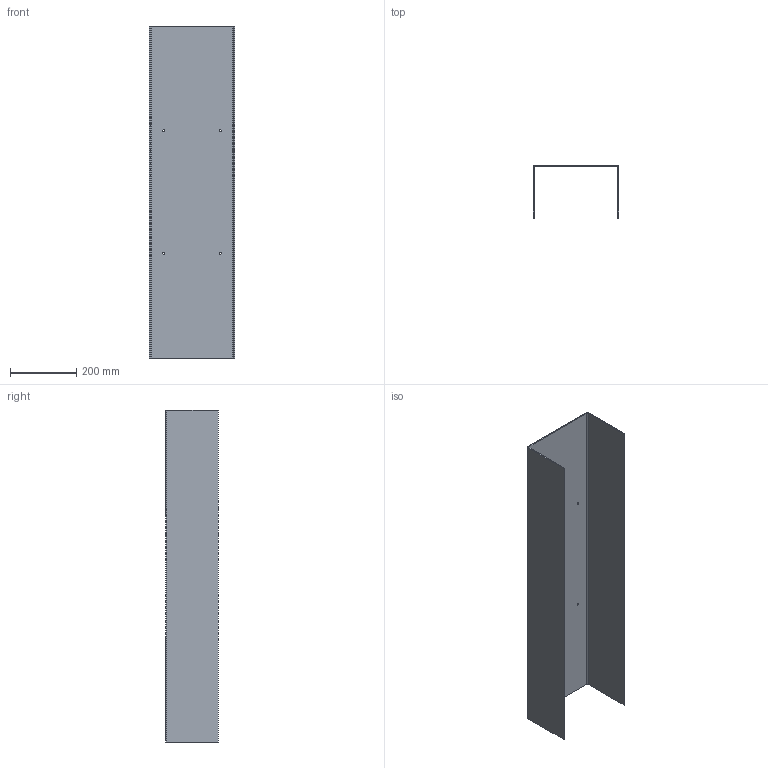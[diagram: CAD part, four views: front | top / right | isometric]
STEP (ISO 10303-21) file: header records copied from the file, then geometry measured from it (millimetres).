
FILE_DESCRIPTION (( 'STEP AP214' ), '1' );
FILE_NAME ('Beruehrungsschutzabdeckung_NF-1200_1600.STEP', '2023-09-08T11:29:57', ( '' ), ( '' ), 'SwSTEP 2.0', 'SolidWorks 2021', '' );
FILE_SCHEMA (( 'AUTOMOTIVE_DESIGN' ));
Length unit declared in the file: millimetre
Products named in the file (1): Beruehrungsschutzabdeckung_NF-1200_1600
Bounding box: 258 x 159 x 1000 mm (x, y, z)
Volume: 1709660.7 mm3; surface area: 1144269.6 mm2
Topology: 1 solids, 1 shells, 22 faces, 60 edges, 40 vertices
Faces by surface type: cylinder 12, plane 10
Entity records: 802 total; most frequent: DIRECTION 130, CARTESIAN_POINT 123, ORIENTED_EDGE 120, EDGE_CURVE 60, AXIS2_PLACEMENT_3D 47, VERTEX_POINT 40, LINE 36, VECTOR 36
